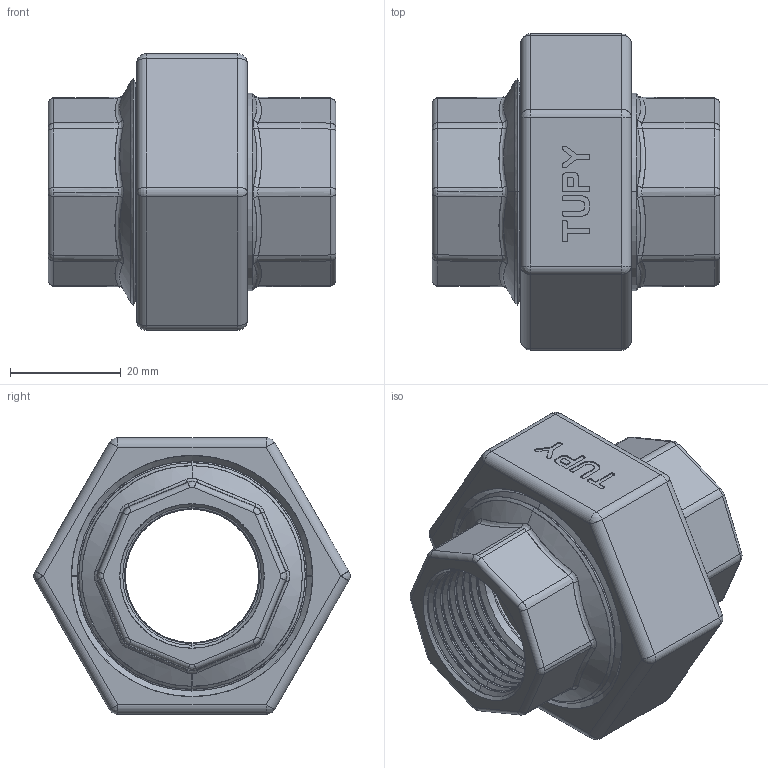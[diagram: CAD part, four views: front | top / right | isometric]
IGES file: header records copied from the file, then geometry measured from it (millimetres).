
Start section: SolidWorks IGES file using analytic representation for surfaces
Global section: file name: C:\Users\Joel Rosa\Desktop\Tubulação\12-62-X\12-62-006.IGS; native system: SolidWorks 2011; preprocessor: SolidWorks 2011; author: Joel Rosa; date: 130721.133255; units: millimetre
Bounding box: 52 x 57.19 x 50 mm (x, y, z)
Surface area: 24868.2 mm2 (no closed solid volume)
Topology: 0 solids, 0 shells, 533 faces, 4270 edges, 4262 vertices
Faces by surface type: bspline 330, revolution 203
